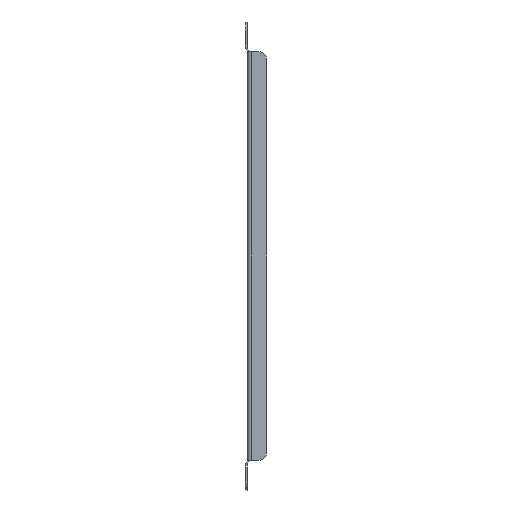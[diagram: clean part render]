
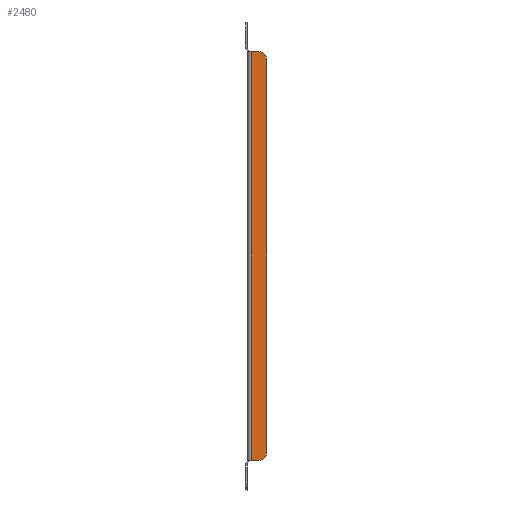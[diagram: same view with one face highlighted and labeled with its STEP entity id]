
A CAD part, front view. The second image highlights one B-rep face of the part: STEP entity #2480.
In plain terms, the highlighted planar face has unit normal (0, -1, 0).
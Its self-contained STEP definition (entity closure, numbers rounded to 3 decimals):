
#150 = VERTEX_POINT ( 'NONE', #1828 ) ;
#179 = VECTOR ( 'NONE', #2445, 1000. ) ;
#348 = ORIENTED_EDGE ( 'NONE', *, *, #927, .T. ) ;
#359 = DIRECTION ( 'NONE',  ( 1., 0., 0. ) ) ;
#381 = CARTESIAN_POINT ( 'NONE',  ( 12., -12.5, 124.5 ) ) ;
#423 = VERTEX_POINT ( 'NONE', #1705 ) ;
#465 = DIRECTION ( 'NONE',  ( 1., 0., 0. ) ) ;
#492 = ORIENTED_EDGE ( 'NONE', *, *, #2183, .F. ) ;
#510 = FACE_OUTER_BOUND ( 'NONE', #834, .T. ) ;
#585 = CARTESIAN_POINT ( 'NONE',  ( 2.4, -12.5, -124.5 ) ) ;
#595 = CARTESIAN_POINT ( 'NONE',  ( 7., -12.5, 124.5 ) ) ;
#699 = DIRECTION ( 'NONE',  ( -1., 0., 0. ) ) ;
#748 = CARTESIAN_POINT ( 'NONE',  ( 2.4, -12.5, 142.5 ) ) ;
#816 = CARTESIAN_POINT ( 'NONE',  ( 12., -12.5, 142.5 ) ) ;
#834 = EDGE_LOOP ( 'NONE', ( #2831, #1116, #492, #2434, #1883, #348 ) ) ;
#881 = EDGE_CURVE ( 'NONE', #3042, #902, #3053, .T. ) ;
#902 = VERTEX_POINT ( 'NONE', #2794 ) ;
#925 = CARTESIAN_POINT ( 'NONE',  ( 12., -12.5, -124.5 ) ) ;
#927 = EDGE_CURVE ( 'NONE', #902, #2658, #2651, .T. ) ;
#958 = LINE ( 'NONE', #925, #1685 ) ;
#1116 = ORIENTED_EDGE ( 'NONE', *, *, #1893, .T. ) ;
#1581 = CARTESIAN_POINT ( 'NONE',  ( 0., -12.5, 142.5 ) ) ;
#1635 = CIRCLE ( 'NONE', #2026, 5. ) ;
#1645 = CARTESIAN_POINT ( 'NONE',  ( 7., -12.5, -119.5 ) ) ;
#1679 = VECTOR ( 'NONE', #3308, 1000. ) ;
#1683 = CARTESIAN_POINT ( 'NONE',  ( 7., -12.5, 119.5 ) ) ;
#1685 = VECTOR ( 'NONE', #699, 1000. ) ;
#1705 = CARTESIAN_POINT ( 'NONE',  ( 7., -12.5, -124.5 ) ) ;
#1828 = CARTESIAN_POINT ( 'NONE',  ( 12., -12.5, -119.5 ) ) ;
#1883 = ORIENTED_EDGE ( 'NONE', *, *, #881, .T. ) ;
#1893 = EDGE_CURVE ( 'NONE', #423, #150, #1906, .T. ) ;
#1906 = CIRCLE ( 'NONE', #3347, 5. ) ;
#1908 = EDGE_CURVE ( 'NONE', #423, #2658, #958, .T. ) ;
#1975 = DIRECTION ( 'NONE',  ( 1., 0., 0. ) ) ;
#2026 = AXIS2_PLACEMENT_3D ( 'NONE', #1683, #2737, #359 ) ;
#2114 = DIRECTION ( 'NONE',  ( 0., -1., 0. ) ) ;
#2175 = VERTEX_POINT ( 'NONE', #2967 ) ;
#2183 = EDGE_CURVE ( 'NONE', #2175, #150, #3000, .T. ) ;
#2355 = AXIS2_PLACEMENT_3D ( 'NONE', #1581, #2114, #465 ) ;
#2434 = ORIENTED_EDGE ( 'NONE', *, *, #2696, .T. ) ;
#2445 = DIRECTION ( 'NONE',  ( 0., 0., -1. ) ) ;
#2480 = ADVANCED_FACE ( 'NONE', ( #510 ), #2600, .T. ) ;
#2600 = PLANE ( 'NONE',  #2355 ) ;
#2651 = LINE ( 'NONE', #748, #2836 ) ;
#2658 = VERTEX_POINT ( 'NONE', #585 ) ;
#2696 = EDGE_CURVE ( 'NONE', #2175, #3042, #1635, .T. ) ;
#2699 = DIRECTION ( 'NONE',  ( 0., -1., 0. ) ) ;
#2737 = DIRECTION ( 'NONE',  ( 0., -1., 0. ) ) ;
#2794 = CARTESIAN_POINT ( 'NONE',  ( 2.4, -12.5, 124.5 ) ) ;
#2831 = ORIENTED_EDGE ( 'NONE', *, *, #1908, .F. ) ;
#2836 = VECTOR ( 'NONE', #3386, 1000. ) ;
#2967 = CARTESIAN_POINT ( 'NONE',  ( 12., -12.5, 119.5 ) ) ;
#3000 = LINE ( 'NONE', #816, #179 ) ;
#3042 = VERTEX_POINT ( 'NONE', #595 ) ;
#3053 = LINE ( 'NONE', #381, #1679 ) ;
#3308 = DIRECTION ( 'NONE',  ( -1., 0., 0. ) ) ;
#3347 = AXIS2_PLACEMENT_3D ( 'NONE', #1645, #2699, #1975 ) ;
#3386 = DIRECTION ( 'NONE',  ( 0., 0., -1. ) ) ;
